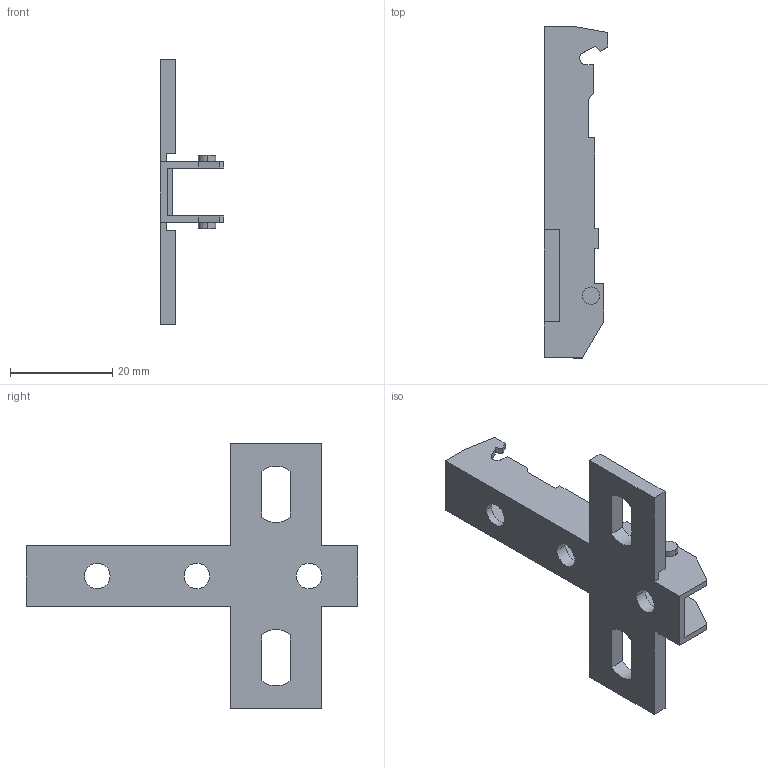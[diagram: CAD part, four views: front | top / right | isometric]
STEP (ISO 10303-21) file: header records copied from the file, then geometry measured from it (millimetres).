
FILE_DESCRIPTION (( 'STEP AP214' ), '1' );
FILE_NAME ('Eco Kreuzmontageplatte LR28_32_Euro_H02.step', '2010-11-18T10:05:48', ( 'grass' ), ( '' ), 'SwSTEP 2.0', 'SolidWorks 2010', '' );
FILE_SCHEMA (( 'AUTOMOTIVE_DESIGN' ));
Length unit declared in the file: millimetre
Products named in the file (1): Eco Kreuzmontageplatte LR28_32_Euro_H02
Bounding box: 12.5 x 65 x 52 mm (x, y, z)
Volume: 4326.4 mm3; surface area: 5755.4 mm2
Topology: 1 solids, 1 shells, 82 faces, 234 edges, 156 vertices
Faces by surface type: plane 66, cylinder 16
Entity records: 2704 total; most frequent: CARTESIAN_POINT 473, ORIENTED_EDGE 468, DIRECTION 432, EDGE_CURVE 234, LINE 202, VECTOR 202, VERTEX_POINT 156, AXIS2_PLACEMENT_3D 115
